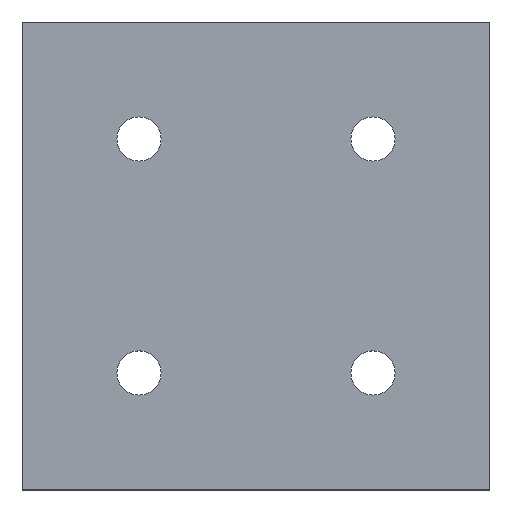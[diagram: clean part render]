
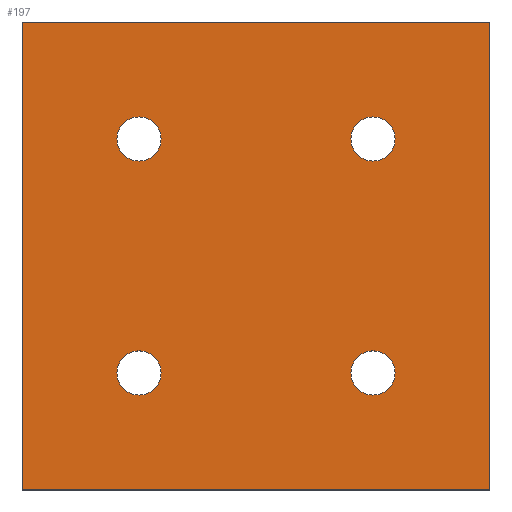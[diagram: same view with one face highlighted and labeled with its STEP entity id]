
A CAD part, top view. The second image highlights one B-rep face of the part: STEP entity #197.
In plain terms, the highlighted planar face has unit normal (0, 0, 1).
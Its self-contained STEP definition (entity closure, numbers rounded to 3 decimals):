
#15=FACE_BOUND('',#48,.T.);
#16=FACE_BOUND('',#49,.T.);
#17=FACE_BOUND('',#50,.T.);
#18=FACE_BOUND('',#51,.T.);
#27=PLANE('',#229);
#37=FACE_OUTER_BOUND('',#47,.T.);
#47=EDGE_LOOP('',(#169,#170,#171,#172));
#48=EDGE_LOOP('',(#173));
#49=EDGE_LOOP('',(#174));
#50=EDGE_LOOP('',(#175));
#51=EDGE_LOOP('',(#176));
#63=LINE('',#317,#79);
#66=LINE('',#323,#82);
#69=LINE('',#329,#85);
#72=LINE('',#333,#88);
#79=VECTOR('',#265,10.);
#82=VECTOR('',#270,10.);
#85=VECTOR('',#275,10.);
#88=VECTOR('',#280,10.);
#89=CIRCLE('',#214,4.25);
#91=CIRCLE('',#217,4.25);
#93=CIRCLE('',#220,4.25);
#95=CIRCLE('',#223,4.25);
#97=VERTEX_POINT('',#287);
#99=VERTEX_POINT('',#293);
#101=VERTEX_POINT('',#299);
#103=VERTEX_POINT('',#305);
#107=VERTEX_POINT('',#314);
#108=VERTEX_POINT('',#316);
#110=VERTEX_POINT('',#322);
#112=VERTEX_POINT('',#328);
#113=EDGE_CURVE('',#97,#97,#89,.T.);
#116=EDGE_CURVE('',#99,#99,#91,.T.);
#119=EDGE_CURVE('',#101,#101,#93,.T.);
#122=EDGE_CURVE('',#103,#103,#95,.T.);
#127=EDGE_CURVE('',#108,#107,#63,.T.);
#130=EDGE_CURVE('',#110,#108,#66,.T.);
#133=EDGE_CURVE('',#112,#110,#69,.T.);
#136=EDGE_CURVE('',#107,#112,#72,.T.);
#169=ORIENTED_EDGE('',*,*,#136,.T.);
#170=ORIENTED_EDGE('',*,*,#133,.T.);
#171=ORIENTED_EDGE('',*,*,#130,.T.);
#172=ORIENTED_EDGE('',*,*,#127,.T.);
#173=ORIENTED_EDGE('',*,*,#122,.T.);
#174=ORIENTED_EDGE('',*,*,#119,.T.);
#175=ORIENTED_EDGE('',*,*,#116,.T.);
#176=ORIENTED_EDGE('',*,*,#113,.T.);
#197=ADVANCED_FACE('',(#37,#15,#16,#17,#18),#27,.T.);
#214=AXIS2_PLACEMENT_3D('',#288,#235,#236);
#217=AXIS2_PLACEMENT_3D('',#294,#242,#243);
#220=AXIS2_PLACEMENT_3D('',#300,#249,#250);
#223=AXIS2_PLACEMENT_3D('',#306,#256,#257);
#229=AXIS2_PLACEMENT_3D('',#334,#281,#282);
#235=DIRECTION('center_axis',(0.,0.,-1.));
#236=DIRECTION('ref_axis',(1.,0.,0.));
#242=DIRECTION('center_axis',(0.,0.,-1.));
#243=DIRECTION('ref_axis',(1.,0.,0.));
#249=DIRECTION('center_axis',(0.,0.,-1.));
#250=DIRECTION('ref_axis',(1.,0.,0.));
#256=DIRECTION('center_axis',(0.,0.,-1.));
#257=DIRECTION('ref_axis',(1.,0.,0.));
#265=DIRECTION('',(-1.,0.,0.));
#270=DIRECTION('',(0.,1.,0.));
#275=DIRECTION('',(1.,0.,0.));
#280=DIRECTION('',(0.,-1.,0.));
#281=DIRECTION('center_axis',(0.,0.,1.));
#282=DIRECTION('ref_axis',(1.,0.,0.));
#287=CARTESIAN_POINT('',(18.25,-22.5,6.));
#288=CARTESIAN_POINT('Origin',(22.5,-22.5,6.));
#293=CARTESIAN_POINT('',(-26.75,-22.5,6.));
#294=CARTESIAN_POINT('Origin',(-22.5,-22.5,6.));
#299=CARTESIAN_POINT('',(-26.75,22.5,6.));
#300=CARTESIAN_POINT('Origin',(-22.5,22.5,6.));
#305=CARTESIAN_POINT('',(18.25,22.5,6.));
#306=CARTESIAN_POINT('Origin',(22.5,22.5,6.));
#314=CARTESIAN_POINT('',(-45.,45.,6.));
#316=CARTESIAN_POINT('',(45.,45.,6.));
#317=CARTESIAN_POINT('',(45.,45.,6.));
#322=CARTESIAN_POINT('',(45.,-45.,6.));
#323=CARTESIAN_POINT('',(45.,-45.,6.));
#328=CARTESIAN_POINT('',(-45.,-45.,6.));
#329=CARTESIAN_POINT('',(-45.,-45.,6.));
#333=CARTESIAN_POINT('',(-45.,45.,6.));
#334=CARTESIAN_POINT('Origin',(0.,0.,6.));
